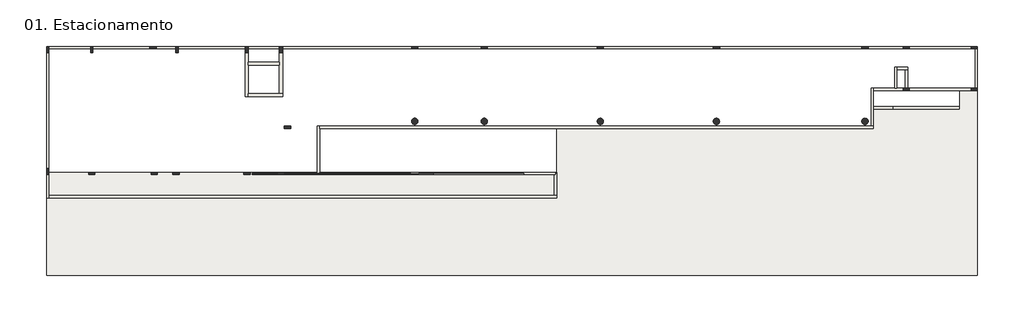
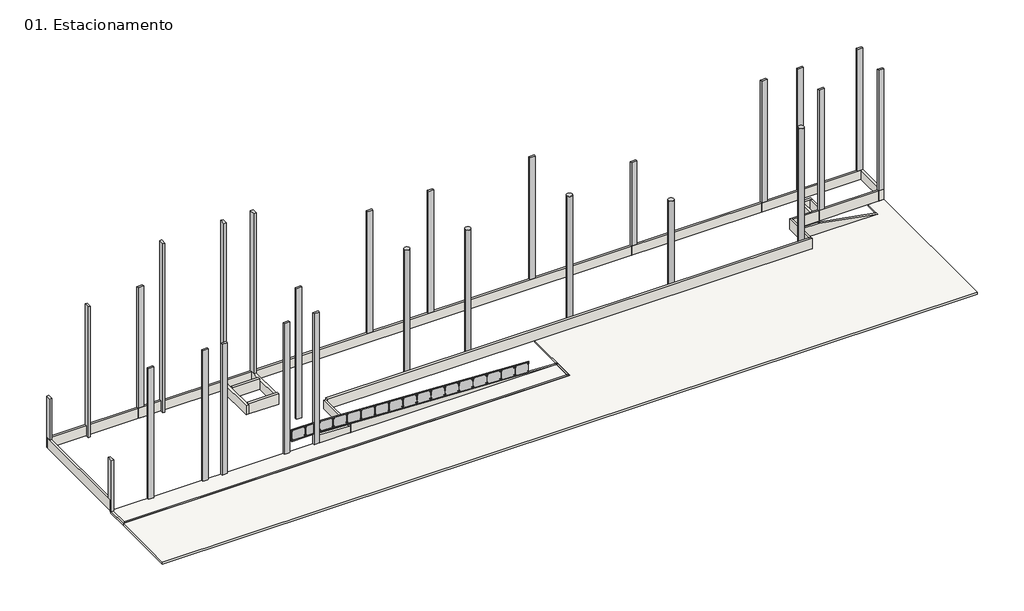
# One storey: 27 columns, 20 walls, 2 slabs, 1 railing.
"""IFC4 building model written with IfcOpenShell, lengths in millimetres."""

from ifc_helpers import new_model, si_unit, point, frame, frame_2d, origin, origin_with_axes, place, context, project, spatial, polyline, circle_curve, trimmed, segment, composite_curve, outline, extrude, faceted_brep, transform, mapped, element, save
from components import m_concrete_rectangular_column_150_x_400mm_822603aa, m_concrete_rectangular_column_150_x_400mm_ad771951, commercial_glass_w_fixings_840375f0

model = new_model("IFC4")

# Units and contexts
model_context = context("Model", 3, world=origin())
ifc_project = project(units=[si_unit("LENGTHUNIT", "METRE", prefix="MILLI")], contexts=[model_context])

# Site, building, storey
site = spatial("IfcSite", under=ifc_project)
building = spatial("IfcBuilding", under=site)
storey = spatial("IfcBuildingStorey", under=building, Name="01. Estacionamento", Elevation=0.0)

# Columns
placement = place(None, origin())
element("IfcColumn", 1, ObjectType="M_Concrete-Circular-Column : Coluna 10,10 - 400mm", at=placement, inside=storey, context=model_context, shape_type="SweptSolid", body=[
    extrude(outline(composite_curve([segment(trimmed(circle_curve(frame_2d((6386.6541151, -7589.5930338)), 200.0), [point((6186.6541151, -7589.5930338))], [point((6586.6541151, -7589.5930338))], False, "CARTESIAN"), True, "CONTINUOUS"), segment(trimmed(circle_curve(frame_2d((6386.6541151, -7589.5930338)), 200.0), [point((6586.6541151, -7589.5930338))], [point((6186.6541151, -7589.5930338))], False, "CARTESIAN"), True, "CONTINUOUS")], self_intersect=False)), frame((0.0, 0.0, 4.8), z_axis=(0.0, 0.0, 1.0), x_axis=(1.0, 0.0, 0.0)), (0.0, 0.0, 1.0), 10100.0),
])
element("IfcColumn", 2, ObjectType="M_Concrete-Circular-Column : Coluna 10,10 - 400mm", at=placement, inside=storey, context=model_context, shape_type="SweptSolid", body=[
    extrude(outline(composite_curve([segment(trimmed(circle_curve(frame_2d((10886.6541151, -7589.5930338)), 200.0), [point((10686.6541151, -7589.5930338))], [point((11086.6541151, -7589.5930338))], False, "CARTESIAN"), True, "CONTINUOUS"), segment(trimmed(circle_curve(frame_2d((10886.6541151, -7589.5930338)), 200.0), [point((11086.6541151, -7589.5930338))], [point((10686.6541151, -7589.5930338))], False, "CARTESIAN"), True, "CONTINUOUS")], self_intersect=False)), frame((0.0, 0.0, 4.8), z_axis=(0.0, 0.0, 1.0), x_axis=(1.0, 0.0, 0.0)), (0.0, 0.0, 1.0), 10100.0),
])
element("IfcColumn", 3, ObjectType="M_Concrete-Circular-Column : Coluna 10,10 - 400mm", at=placement, inside=storey, context=model_context, shape_type="SweptSolid", body=[
    extrude(outline(composite_curve([segment(trimmed(circle_curve(frame_2d((18386.6541151, -7589.5930338)), 200.0), [point((18186.6541151, -7589.5930338))], [point((18586.6541151, -7589.5930338))], False, "CARTESIAN"), True, "CONTINUOUS"), segment(trimmed(circle_curve(frame_2d((18386.6541151, -7589.5930338)), 200.0), [point((18586.6541151, -7589.5930338))], [point((18186.6541151, -7589.5930338))], False, "CARTESIAN"), True, "CONTINUOUS")], self_intersect=False)), frame((0.0, 0.0, 4.8), z_axis=(0.0, 0.0, 1.0), x_axis=(1.0, 0.0, 0.0)), (0.0, 0.0, 1.0), 10100.0),
])
element("IfcColumn", 4, ObjectType="M_Concrete-Circular-Column : Coluna 7,10m - 400mm", at=placement, inside=storey, context=model_context, shape_type="SweptSolid", body=[
    extrude(outline(composite_curve([segment(trimmed(circle_curve(frame_2d((25886.6541151, -7589.5930338)), 200.0), [point((25686.6541151, -7589.5930338))], [point((26086.6541151, -7589.5930338))], False, "CARTESIAN"), True, "CONTINUOUS"), segment(trimmed(circle_curve(frame_2d((25886.6541151, -7589.5930338)), 200.0), [point((26086.6541151, -7589.5930338))], [point((25686.6541151, -7589.5930338))], False, "CARTESIAN"), True, "CONTINUOUS")], self_intersect=False)), frame((0.0, 0.0, 4.8), z_axis=(0.0, 0.0, 1.0), x_axis=(1.0, 0.0, 0.0)), (0.0, 0.0, 1.0), 7100.0),
])
element("IfcColumn", 5, ObjectType="M_Concrete-Circular-Column : Coluna 9,20m - 400mm", at=placement, inside=storey, context=model_context, shape_type="SweptSolid", body=[
    extrude(outline(composite_curve([segment(trimmed(circle_curve(frame_2d((35486.6541151, -7589.5930338)), 200.0), [point((35286.6541151, -7589.5930338))], [point((35686.6541151, -7589.5930338))], False, "CARTESIAN"), True, "CONTINUOUS"), segment(trimmed(circle_curve(frame_2d((35486.6541151, -7589.5930338)), 200.0), [point((35686.6541151, -7589.5930338))], [point((35286.6541151, -7589.5930338))], False, "CARTESIAN"), True, "CONTINUOUS")], self_intersect=False)), origin_with_axes(), (0.0, 0.0, 1.0), 9400.0),
])
element("IfcColumn", 6, ObjectType="M_Concrete-Rectangular-Column : 150 x 400MM", at=placement, inside=storey, context=model_context, shape_type="SweptSolid", body=[
    extrude(outline(polyline([(-14404.6326345, -2741.1116245), (-14404.6326345, -3141.1116245), (-14554.6326345, -3141.1116245), (-14554.6326345, -2741.1116245), (-14404.6326345, -2741.1116245)])), frame((0.0, 0.0, 4.8), z_axis=(0.0, 0.0, 1.0), x_axis=(1.0, 0.0, 0.0)), (0.0, 0.0, 1.0), 10200.0),
])
element("IfcColumn", 7, ObjectType="M_Concrete-Rectangular-Column : 150 x 400MM", at=placement, inside=storey, context=model_context, shape_type="SweptSolid", body=[
    extrude(outline(polyline([(-10729.6326345, -2741.1116245), (-10329.6326345, -2741.1116245), (-10329.6326345, -2891.1116245), (-10729.6326345, -2891.1116245), (-10729.6326345, -2741.1116245)])), frame((0.0, 0.0, 4.8), z_axis=(0.0, 0.0, 1.0), x_axis=(1.0, 0.0, 0.0)), (0.0, 0.0, 1.0), 10200.0),
])
element("IfcColumn", 8, ObjectType="M_Concrete-Rectangular-Column : 150 x 400MM", at=placement, inside=storey, context=model_context, shape_type="SweptSolid", body=[
    extrude(outline(polyline([(-8904.6326345, -2741.1116245), (-8904.6326345, -3141.1116245), (-9054.6326345, -3141.1116245), (-9054.6326345, -2741.1116245), (-8904.6326345, -2741.1116245)])), frame((0.0, 0.0, 4.8), z_axis=(0.0, 0.0, 1.0), x_axis=(1.0, 0.0, 0.0)), (0.0, 0.0, 1.0), 13195.2),
])
element("IfcColumn", 9, ObjectType="M_Concrete-Rectangular-Column : 150 x 400MM", at=placement, inside=storey, context=model_context, shape_type="SweptSolid", body=[
    extrude(outline(polyline([(6185.3673655, -2741.1116245), (6585.3673655, -2741.1116245), (6585.3673655, -2891.1116245), (6185.3673655, -2891.1116245), (6185.3673655, -2741.1116245)])), frame((0.0, 0.0, 4.8), z_axis=(0.0, 0.0, 1.0), x_axis=(1.0, 0.0, 0.0)), (0.0, 0.0, 1.0), 10200.0),
])
element("IfcColumn", 10, ObjectType="M_Concrete-Rectangular-Column : 150 x 400MM", at=placement, inside=storey, context=model_context, shape_type="SweptSolid", body=[
    extrude(outline(polyline([(10685.3673655, -2741.1116245), (11085.3673655, -2741.1116245), (11085.3673655, -2891.1116245), (10685.3673655, -2891.1116245), (10685.3673655, -2741.1116245)])), frame((0.0, 0.0, 4.8), z_axis=(0.0, 0.0, 1.0), x_axis=(1.0, 0.0, 0.0)), (0.0, 0.0, 1.0), 10200.0),
])
element("IfcColumn", 11, ObjectType="M_Concrete-Rectangular-Column : 150 x 400MM", at=placement, inside=storey, context=model_context, shape_type="SweptSolid", body=[
    extrude(outline(polyline([(18185.3673655, -2741.1116245), (18585.3673655, -2741.1116245), (18585.3673655, -2891.1116245), (18185.3673655, -2891.1116245), (18185.3673655, -2741.1116245)])), frame((0.0, 0.0, 4.8), z_axis=(0.0, 0.0, 1.0), x_axis=(1.0, 0.0, 0.0)), (0.0, 0.0, 1.0), 10200.0),
])
element("IfcColumn", 12, ObjectType="M_Concrete-Rectangular-Column : 150 x 400MM", at=placement, inside=storey, context=model_context, shape_type="SweptSolid", body=[
    extrude(outline(polyline([(25685.3673655, -2741.1116245), (26085.3673655, -2741.1116245), (26085.3673655, -2891.1116245), (25685.3673655, -2891.1116245), (25685.3673655, -2741.1116245)])), frame((0.0, 0.0, 4.8), z_axis=(0.0, 0.0, 1.0), x_axis=(1.0, 0.0, 0.0)), (0.0, 0.0, 1.0), 7200.0),
])
element("IfcColumn", 13, ObjectType="M_Concrete-Rectangular-Column : 150 x 400MM", at=placement, inside=storey, context=model_context, shape_type="SweptSolid", body=[
    extrude(outline(polyline([(35285.3673655, -2741.1116245), (35685.3673655, -2741.1116245), (35685.3673655, -2891.1116245), (35285.3673655, -2891.1116245), (35285.3673655, -2741.1116245)])), frame((0.0, 0.0, 4.8), z_axis=(0.0, 0.0, 1.0), x_axis=(1.0, 0.0, 0.0)), (0.0, 0.0, 1.0), 10200.0),
])
element("IfcColumn", 14, ObjectType="M_Concrete-Rectangular-Column : 150 x 400MM", at=placement, inside=storey, context=model_context, shape_type="SweptSolid", body=[
    extrude(outline(polyline([(37960.3673655, -2741.1116245), (38360.3673655, -2741.1116245), (38360.3673655, -2891.1116245), (37960.3673655, -2891.1116245), (37960.3673655, -2741.1116245)])), frame((0.0, 0.0, 4.8), z_axis=(0.0, 0.0, 1.0), x_axis=(1.0, 0.0, 0.0)), (0.0, 0.0, 1.0), 10200.0),
])
element("IfcColumn", 15, ObjectType="M_Concrete-Rectangular-Column : 150 x 400MM", at=placement, inside=storey, context=model_context, shape_type="SweptSolid", body=[
    extrude(outline(polyline([(37960.3673655, -5441.1116245), (38360.3673655, -5441.1116245), (38360.3673655, -5591.1116245), (37960.3673655, -5591.1116245), (37960.3673655, -5441.1116245)])), frame((0.0, 0.0, 4.8), z_axis=(0.0, 0.0, 1.0), x_axis=(1.0, 0.0, 0.0)), (0.0, 0.0, 1.0), 10200.0),
])
m_concrete_rectangular_column_150_x_400mm_shape = m_concrete_rectangular_column_150_x_400mm_822603aa(model_context)
element("IfcColumn", 16, ObjectType="M_Concrete-Rectangular-Column : 150 x 400MM", at=placement, inside=storey, context=model_context, shape_type="MappedRepresentation", body=[
    mapped(m_concrete_rectangular_column_150_x_400mm_shape, transform((-17329.6326345, -2941.1116245, 0.0), x_axis=(1.0, 0.0, 0.0), y_axis=(0.0, 1.0, 0.0), z_axis=(0.0, 0.0, 1.0))),
])
element("IfcColumn", 17, ObjectType="M_Concrete-Rectangular-Column : 150 x 400MM", at=placement, inside=storey, context=model_context, shape_type="MappedRepresentation", body=[
    mapped(m_concrete_rectangular_column_150_x_400mm_shape, transform((-17329.6326345, -10841.1116245, 0.0), x_axis=(1.0, 0.0, 0.0), y_axis=(0.0, 1.0, 0.0), z_axis=(0.0, 0.0, 1.0))),
])
m_concrete_rectangular_column_150_x_400mm_2_shape = m_concrete_rectangular_column_150_x_400mm_ad771951(model_context)
element("IfcColumn", 18, ObjectType="M_Concrete-Rectangular-Column : 150 x 400MM", at=placement, inside=storey, context=model_context, shape_type="MappedRepresentation", body=[
    mapped(m_concrete_rectangular_column_150_x_400mm_2_shape, transform((-14479.6326345, -10966.1116245, 0.0), x_axis=(0.0, 1.0, 0.0), y_axis=(-1.0, 0.0, 0.0), z_axis=(0.0, 0.0, 1.0))),
])
element("IfcColumn", 19, ObjectType="M_Concrete-Rectangular-Column : 150 x 400MM", at=placement, inside=storey, context=model_context, shape_type="MappedRepresentation", body=[
    mapped(m_concrete_rectangular_column_150_x_400mm_2_shape, transform((-10449.6326345, -10966.0281964, 0.0), x_axis=(0.0, 1.0, 0.0), y_axis=(-1.0, 0.0, 0.0), z_axis=(0.0, 0.0, 1.0))),
])
element("IfcColumn", 20, ObjectType="M_Concrete-Rectangular-Column : 150 x 400MM", at=placement, inside=storey, context=model_context, shape_type="MappedRepresentation", body=[
    mapped(m_concrete_rectangular_column_150_x_400mm_2_shape, transform((-9044.6326345, -10966.0281964, 0.0), x_axis=(0.0, 1.0, 0.0), y_axis=(-1.0, 0.0, 0.0), z_axis=(0.0, 0.0, 1.0))),
])
element("IfcColumn", 21, ObjectType="M_Concrete-Rectangular-Column : 150 x 400MM", at=placement, inside=storey, context=model_context, shape_type="MappedRepresentation", body=[
    mapped(m_concrete_rectangular_column_150_x_400mm_2_shape, transform((-4454.6326345, -10966.0281964, 0.0), x_axis=(0.0, 1.0, 0.0), y_axis=(-1.0, 0.0, 0.0), z_axis=(0.0, 0.0, 1.0))),
])
element("IfcColumn", 22, ObjectType="M_Concrete-Rectangular-Column : 150 x 400MM", at=placement, inside=storey, context=model_context, shape_type="MappedRepresentation", body=[
    mapped(m_concrete_rectangular_column_150_x_400mm_2_shape, transform((-2254.6326345, -10966.0281964, 0.0), x_axis=(0.0, 1.0, 0.0), y_axis=(-1.0, 0.0, 0.0), z_axis=(0.0, 0.0, 1.0))),
])
element("IfcColumn", 23, ObjectType="M_Concrete-Rectangular-Column : 150 x 400MM", at=placement, inside=storey, context=model_context, shape_type="MappedRepresentation", body=[
    mapped(m_concrete_rectangular_column_150_x_400mm_2_shape, transform((-1829.6326345, -7966.1116245, 0.0), x_axis=(0.0, 1.0, 0.0), y_axis=(-1.0, 0.0, 0.0), z_axis=(0.0, 0.0, 1.0))),
])
element("IfcColumn", 24, ObjectType="M_Concrete-Rectangular-Column : 150 x 400MM", at=placement, inside=storey, context=model_context, shape_type="MappedRepresentation", body=[
    mapped(m_concrete_rectangular_column_150_x_400mm_2_shape, transform((42555.3673655, -2816.1116245, 0.0), x_axis=(0.0, 1.0, 0.0), y_axis=(-1.0, 0.0, 0.0), z_axis=(0.0, 0.0, 1.0))),
])
element("IfcColumn", 25, ObjectType="M_Concrete-Rectangular-Column : 150 x 400MM", at=placement, inside=storey, context=model_context, shape_type="MappedRepresentation", body=[
    mapped(m_concrete_rectangular_column_150_x_400mm_2_shape, transform((42555.3673655, -5516.1116245, 0.0), x_axis=(0.0, 1.0, 0.0), y_axis=(-1.0, 0.0, 0.0), z_axis=(0.0, 0.0, 1.0))),
])
element("IfcColumn", 26, ObjectType="M_Concrete-Rectangular-Column : 200 x 400MM", at=placement, inside=storey, context=model_context, shape_type="SweptSolid", body=[
    extrude(outline(polyline([(-4354.6326345, -2741.1116245), (-4354.6326345, -3141.1116245), (-4554.6326345, -3141.1116245), (-4554.6326345, -2741.1116245), (-4354.6326345, -2741.1116245)])), frame((0.0, 0.0, 4.8), z_axis=(0.0, 0.0, 1.0), x_axis=(1.0, 0.0, 0.0)), (0.0, 0.0, 1.0), 13195.2),
])
element("IfcColumn", 27, ObjectType="M_Concrete-Rectangular-Column : 200 x 400MM", at=placement, inside=storey, context=model_context, shape_type="SweptSolid", body=[
    extrude(outline(polyline([(-2154.6326345, -2741.1116245), (-2154.6326345, -3141.1116245), (-2354.6326345, -3141.1116245), (-2354.6326345, -2741.1116245), (-2154.6326345, -2741.1116245)])), frame((0.0, 0.0, 4.8), z_axis=(0.0, 0.0, 1.0), x_axis=(1.0, 0.0, 0.0)), (0.0, 0.0, 1.0), 13195.2),
])

# Railing
commercial_glass_w_fixings_shape = commercial_glass_w_fixings_840375f0(model_context)
element("IfcRailing", 28, ObjectType="Commercial - Glass w Fixings", at=placement, inside=storey, context=model_context, shape_type="MappedRepresentation", body=[
    mapped(commercial_glass_w_fixings_shape, transform((0.0, 0.0, 0.0), x_axis=(1.0, 0.0, 0.0), y_axis=(0.0, 1.0, 0.0), z_axis=(0.0, 0.0, 1.0))),
])

# Slabs
element("IfcSlab", 29, ObjectType=".PUMP - INTERTRAVADO NATURAL", at=placement, inside=storey, context=model_context, shape_type="SweptSolid", body=[
    extrude(outline(polyline([(-17404.6326345, -17541.1116245), (-17404.6326345, -12541.1116245), (15565.3673655, -12541.1116245), (15565.3673655, -8041.1116245), (36035.3673655, -8041.1116245), (36035.3673655, -6791.1116245), (36075.3673655, -6791.1116245), (41595.3673655, -6791.1116245), (41595.3673655, -5591.1116245), (42755.3673655, -5591.1116245), (42755.3673655, -17541.1116245), (-17404.6326345, -17541.1116245)])), frame((0.0, 0.0, -140.0), z_axis=(0.0, 0.0, 1.0), x_axis=(1.0, 0.0, 0.0)), (0.0, 0.0, 1.0), 140.0),
])
element("IfcSlab", 30, ObjectType="Genérico 100 mm", at=placement, inside=storey, context=model_context, shape_type="Brep", body=[
    faceted_brep([(-17404.6326345, -12541.1116245, -100.0), (-17404.6326345, -11041.1116245, -100.0), (-17404.6326345, -10891.1116245, -100.0), (15565.3673655, -10891.1116245, -100.0), (15565.3673655, -12541.1116245, -100.0), (-17404.6326345, -12541.1116245, 0.0), (15565.3673655, -12541.1116245, 0.0), (15565.3673655, -10891.1116245, 0.0), (-2029.6326345, -10891.1116245, 0.0), (-17404.6326345, -10891.1116245, 0.0), (-17404.6326345, -11041.1116245, 0.0)], [[[0, 1, 2, 3, 4]], [[5, 6, 7, 8, 9, 10]], [[1, 0, 5, 10]], [[2, 1, 10, 9]], [[3, 2, 9, 8, 7]], [[4, 3, 7, 6]], [[0, 4, 6, 5]]]),
])

# Walls
element("IfcWall", 31, ObjectType="Genérica - meio fio para calçada", at=placement, inside=storey, context=model_context, shape_type="Brep", body=[
    faceted_brep([(-17404.6326345, -10966.1116245, -150.0), (-17404.6326345, -12541.1116245, -150.0), (-17404.6326345, -12541.1116245, 0.0), (-17404.6326345, -10966.1116245, 0.0), (-17254.6326345, -10966.1116245, -150.0), (-17254.6326345, -10966.1116245, 0.0), (-17254.6326345, -12391.1116245, 0.0), (-17254.6326345, -12541.1116245, 0.0), (-17254.6326345, -12541.1116245, -150.0), (-17254.6326345, -12391.1116245, -150.0)], [[[0, 1, 2, 3]], [[4, 5, 6, 7, 8, 9]], [[1, 0, 4, 9, 8]], [[3, 2, 7, 6, 5]], [[0, 3, 5, 4]], [[2, 1, 8, 7]]]),
])
element("IfcWall", 32, ObjectType="Genérica - meio fio para calçada", at=placement, inside=storey, context=model_context, shape_type="Brep", body=[
    faceted_brep([(-17254.6326345, -12541.1116245, -150.0), (15565.3673655, -12541.1116245, -150.0), (15565.3673655, -12541.1116245, 0.0), (-17254.6326345, -12541.1116245, 0.0), (-17254.6326345, -12391.1116245, -150.0), (-17254.6326345, -12391.1116245, 0.0), (15415.3673655, -12391.1116245, 0.0), (15565.3673655, -12391.1116245, 0.0), (15565.3673655, -12391.1116245, -150.0), (15415.3673655, -12391.1116245, -150.0)], [[[0, 1, 2, 3]], [[4, 5, 6, 7, 8, 9]], [[1, 0, 4, 9, 8]], [[3, 2, 7, 6, 5]], [[0, 3, 5, 4]], [[2, 1, 8, 7]]]),
])
element("IfcWall", 33, ObjectType="Genérica - meio fio para calçada", at=placement, inside=storey, context=model_context, shape_type="SweptSolid", body=[
    extrude(outline(polyline([(15565.3673655, -10966.1116245), (15565.3673655, -12391.1116245), (15415.3673655, -12391.1116245), (15415.3673655, -10966.1116245), (15565.3673655, -10966.1116245)])), frame((0.0, 0.0, -150.0), z_axis=(0.0, 0.0, 1.0), x_axis=(1.0, 0.0, 0.0)), (0.0, 0.0, 1.0), 150.0),
])
element("IfcWall", 34, ObjectType="Genérica - meio fio para calçada", at=placement, inside=storey, context=model_context, shape_type="Brep", body=[
    faceted_brep([(236.9816244, -11041.1116245, 0.0), (236.9816244, -10891.1116245, 0.0), (236.9816244, -8041.1116245, 0.0), (236.9816244, -7891.1116245, 0.0), (236.9816244, -7891.1116245, 650.0), (236.9816244, -11041.1116245, 650.0), (86.9816244, -11041.1116245, 0.0), (86.9816244, -11041.1116245, 650.0), (86.9816244, -7891.1116245, 650.0), (86.9816244, -7891.1116245, 0.0)], [[[0, 1, 2, 3, 4, 5]], [[6, 7, 8, 9]], [[3, 2, 1, 0, 6, 9]], [[5, 4, 8, 7]], [[0, 5, 7, 6]], [[4, 3, 9, 8]]]),
])
element("IfcWall", 35, ObjectType="Genérica - meio fio para calçada", at=placement, inside=storey, context=model_context, shape_type="Brep", body=[
    faceted_brep([(236.9816244, -8041.1116245, 0.0), (36035.3673655, -8041.1116245, 0.0), (36035.3673655, -8041.1116245, 800.0), (236.9816244, -8041.1116245, 800.0), (236.9816244, -7891.1116245, 0.0), (236.9816244, -7891.1116245, 650.0), (236.9816244, -7891.1116245, 800.0), (35885.3673655, -7891.1116245, 800.0), (36035.3673655, -7891.1116245, 800.0), (36035.3673655, -7891.1116245, 0.0), (35885.3673655, -7891.1116245, 0.0)], [[[0, 1, 2, 3]], [[4, 5, 6, 7, 8, 9, 10]], [[1, 0, 4, 10, 9]], [[3, 2, 8, 7, 6]], [[0, 3, 6, 5, 4]], [[2, 1, 9, 8]]]),
])
element("IfcWall", 36, ObjectType="Genérica - meio fio para calçada", at=placement, inside=storey, context=model_context, shape_type="Brep", body=[
    faceted_brep([(36035.3673655, -7891.1116245, 0.0), (36035.3673655, -5591.1116245, 0.0), (36035.3673655, -5441.1116245, 0.0), (36035.3673655, -5441.1116245, 800.0), (36035.3673655, -5591.1116245, 800.0), (36035.3673655, -7891.1116245, 800.0), (35885.3673655, -7891.1116245, 0.0), (35885.3673655, -7891.1116245, 800.0), (35885.3673655, -5441.1116245, 800.0), (35885.3673655, -5441.1116245, 0.0)], [[[0, 1, 2, 3, 4, 5]], [[6, 7, 8, 9]], [[2, 1, 0, 6, 9]], [[5, 4, 3, 8, 7]], [[0, 5, 7, 6]], [[3, 2, 9, 8]]]),
])
element("IfcWall", 37, ObjectType="Genérica - meio fio para calçada", at=placement, inside=storey, context=model_context, shape_type="Brep", body=[
    faceted_brep([(36035.3673655, -5591.1116245, 0.0), (42755.3673655, -5591.1116245, 0.0), (42755.3673655, -5591.1116245, 800.0), (36035.3673655, -5591.1116245, 800.0), (36035.3673655, -5441.1116245, 0.0), (36035.3673655, -5441.1116245, 800.0), (37395.3673655, -5441.1116245, 800.0), (37545.3673655, -5441.1116245, 800.0), (38085.3673655, -5441.1116245, 800.0), (38235.3673655, -5441.1116245, 800.0), (42605.3673655, -5441.1116245, 800.0), (42755.3673655, -5441.1116245, 800.0), (42755.3673655, -5441.1116245, 0.0), (42605.3673655, -5441.1116245, 0.0), (38235.3673655, -5441.1116245, 0.0), (38085.3673655, -5441.1116245, 0.0), (37545.3673655, -5441.1116245, 0.0), (37395.3673655, -5441.1116245, 0.0)], [[[0, 1, 2, 3]], [[4, 5, 6, 7, 8, 9, 10, 11, 12, 13, 14, 15, 16, 17]], [[1, 0, 4, 17, 16, 15, 14, 13, 12]], [[3, 2, 11, 10, 9, 8, 7, 6, 5]], [[0, 3, 5, 4]], [[2, 1, 12, 11]]]),
])
element("IfcWall", 38, ObjectType="Genérica - meio fio para calçada", at=placement, inside=storey, context=model_context, shape_type="Brep", body=[
    faceted_brep([(42755.3673655, -5441.1116245, 0.0), (42755.3673655, -2741.1116245, 0.0), (42755.3673655, -2741.1116245, 700.0), (42755.3673655, -5441.1116245, 700.0), (42605.3673655, -2741.1116245, 0.0), (42605.3673655, -2891.1116245, 0.0), (42605.3673655, -5441.1116245, 0.0), (42605.3673655, -5441.1116245, 700.0), (42605.3673655, -2741.1116245, 700.0)], [[[0, 1, 2, 3]], [[4, 5, 6, 7, 8]], [[1, 0, 6, 5, 4]], [[6, 0, 3, 7]], [[1, 4, 8, 2]], [[3, 2, 8, 7]]]),
])
element("IfcWall", 39, ObjectType="Genérica - meio fio para calçada", at=placement, inside=storey, context=model_context, shape_type="Brep", body=[
    faceted_brep([(42605.3673655, -2741.1116245, 0.0), (-17404.6326345, -2741.1116245, 0.0), (-17404.6326345, -2741.1116245, 800.0), (-9054.6326345, -2741.1116245, 800.0), (-9054.6326345, -2741.1116245, 700.0), (42605.3673655, -2741.1116245, 700.0), (-17404.6326345, -2891.1116245, 0.0), (-17254.6326345, -2891.1116245, 0.0), (-10604.6326345, -2891.1116245, 0.0), (-10454.6326345, -2891.1116245, 0.0), (-9054.6326345, -2891.1116245, 0.0), (-8904.6326345, -2891.1116245, 0.0), (-4554.6326345, -2891.1116245, 0.0), (-4354.6326345, -2891.1116245, 0.0), (-2354.6326345, -2891.1116245, 0.0), (-2154.6326345, -2891.1116245, 0.0), (42605.3673655, -2891.1116245, 0.0), (42605.3673655, -2891.1116245, 700.0), (-2154.6326345, -2891.1116245, 700.0), (-2354.6326345, -2891.1116245, 700.0), (-4354.6326345, -2891.1116245, 700.0), (-4554.6326345, -2891.1116245, 700.0), (-8904.6326345, -2891.1116245, 700.0), (-9054.6326345, -2891.1116245, 700.0), (-9054.6326345, -2891.1116245, 800.0), (-17254.6326345, -2891.1116245, 800.0), (-17404.6326345, -2891.1116245, 800.0)], [[[0, 1, 2, 3, 4, 5]], [[6, 7, 8, 9, 10, 11, 12, 13, 14, 15, 16, 17, 18, 19, 20, 21, 22, 23, 24, 25, 26]], [[1, 0, 16, 15, 14, 13, 12, 11, 10, 9, 8, 7, 6]], [[2, 26, 25, 24, 3]], [[16, 0, 5, 17]], [[2, 1, 6, 26]], [[4, 23, 22, 21, 20, 19, 18, 17, 5]], [[23, 4, 3, 24]]]),
])
element("IfcWall", 40, ObjectType="Genérica - meio fio para calçada", at=placement, inside=storey, context=model_context, shape_type="SweptSolid", body=[
    extrude(outline(polyline([(-17404.6326345, -10891.1116245), (-17404.6326345, -2891.1116245), (-17254.6326345, -2891.1116245), (-17254.6326345, -10891.1116245), (-17404.6326345, -10891.1116245)])), origin_with_axes(), (0.0, 0.0, 1.0), 800.0),
])
element("IfcWall", 41, ObjectType="Genérica - meio fio para calçada", at=placement, inside=storey, context=model_context, shape_type="Brep", body=[
    faceted_brep([(236.9816244, -11041.1116245, 0.0), (15490.3673655, -11041.1116245, 0.0), (236.9816244, -11041.1116245, 695.0257619), (236.9816244, -11041.1116245, 650.0), (236.9816244, -10891.1116245, 0.0), (236.9816244, -10891.1116245, 695.0257619), (15490.3673655, -10891.1116245, 0.0)], [[[0, 1, 2, 3]], [[4, 5, 6]], [[1, 0, 4, 6]], [[2, 1, 6, 5]], [[0, 3, 2, 5, 4]]]),
])
element("IfcWall", 42, ObjectType="Genérica - meio fio para calçada", at=placement, inside=storey, context=model_context, shape_type="SweptSolid", body=[
    extrude(outline(polyline([(0.0, 36043.2172567), (0.0, 41595.3673655), (793.4412272, 37267.4982572), (793.4412272, 36043.2172567), (0.0, 36043.2172567)])), frame((0.0, -6791.1116245, 0.0), z_axis=(0.0, 1.0, 0.0), x_axis=(0.0, 0.0, 1.0)), (0.0, 0.0, 1.0), 150.0),
])
element("IfcWall", 43, ObjectType="Genérica - 15cm", at=placement, inside=storey, context=model_context, shape_type="Brep", body=[
    faceted_brep([(37545.3673655, -5441.1116245, 0.0), (37545.3673655, -4241.1116245, 0.0), (37545.3673655, -4091.1116245, 0.0), (37545.3673655, -4091.1116245, 800.0), (37545.3673655, -4241.1116245, 800.0), (37545.3673655, -5441.1116245, 800.0), (37395.3673655, -5441.1116245, 0.0), (37395.3673655, -5441.1116245, 800.0), (37395.3673655, -4091.1116245, 800.0), (37395.3673655, -4091.1116245, 0.0)], [[[0, 1, 2, 3, 4, 5]], [[6, 7, 8, 9]], [[2, 1, 0, 6, 9]], [[5, 4, 3, 8, 7]], [[0, 5, 7, 6]], [[3, 2, 9, 8]]]),
])
element("IfcWall", 44, ObjectType="Genérica - 15cm", at=placement, inside=storey, context=model_context, shape_type="Brep", body=[
    faceted_brep([(37545.3673655, -4241.1116245, 0.0), (38085.3673655, -4241.1116245, 0.0), (38235.3673655, -4241.1116245, 0.0), (38235.3673655, -4241.1116245, 800.0), (38085.3673655, -4241.1116245, 800.0), (37545.3673655, -4241.1116245, 800.0), (37545.3673655, -4091.1116245, 0.0), (37545.3673655, -4091.1116245, 800.0), (38235.3673655, -4091.1116245, 800.0), (38235.3673655, -4091.1116245, 0.0)], [[[0, 1, 2, 3, 4, 5]], [[6, 7, 8, 9]], [[2, 1, 0, 6, 9]], [[5, 4, 3, 8, 7]], [[0, 5, 7, 6]], [[3, 2, 9, 8]]]),
])
element("IfcWall", 45, ObjectType="Genérica - 15cm", at=placement, inside=storey, context=model_context, shape_type="SweptSolid", body=[
    extrude(outline(polyline([(38085.3673655, -5441.1116245), (38085.3673655, -4241.1116245), (38235.3673655, -4241.1116245), (38235.3673655, -5441.1116245), (38085.3673655, -5441.1116245)])), origin_with_axes(), (0.0, 0.0, 1.0), 800.0),
])
element("IfcWall", 46, ObjectType="Genérica - 20cm", at=placement, inside=storey, context=model_context, shape_type="Brep", body=[
    faceted_brep([(-4554.6326345, -2891.1116245, 0.0), (-4554.6326345, -5991.1116245, 0.0), (-4554.6326345, -5991.1116245, 700.0), (-4554.6326345, -2891.1116245, 700.0), (-4354.6326345, -5991.1116245, 0.0), (-4354.6326345, -5791.1116245, 0.0), (-4354.6326345, -3941.1116245, 0.0), (-4354.6326345, -3741.1116245, 0.0), (-4354.6326345, -2891.1116245, 0.0), (-4354.6326345, -2891.1116245, 700.0), (-4354.6326345, -3741.1116245, 700.0), (-4354.6326345, -3941.1116245, 700.0), (-4354.6326345, -5791.1116245, 700.0), (-4354.6326345, -5991.1116245, 700.0)], [[[0, 1, 2, 3]], [[4, 5, 6, 7, 8, 9, 10, 11, 12, 13]], [[1, 0, 8, 7, 6, 5, 4]], [[8, 0, 3, 9]], [[1, 4, 13, 2]], [[3, 2, 13, 12, 11, 10, 9]]]),
])
element("IfcWall", 47, ObjectType="Genérica - 20cm", at=placement, inside=storey, context=model_context, shape_type="Brep", body=[
    faceted_brep([(-4354.6326345, -5991.1116245, 0.0), (-2154.6326345, -5991.1116245, 0.0), (-2154.6326345, -5991.1116245, 800.0), (-4354.6326345, -5991.1116245, 800.0), (-4354.6326345, -5791.1116245, 0.0), (-4354.6326345, -5791.1116245, 800.0), (-2354.6326345, -5791.1116245, 800.0), (-2154.6326345, -5791.1116245, 800.0), (-2154.6326345, -5791.1116245, 0.0), (-2354.6326345, -5791.1116245, 0.0)], [[[0, 1, 2, 3]], [[4, 5, 6, 7, 8, 9]], [[1, 0, 4, 9, 8]], [[3, 2, 7, 6, 5]], [[0, 3, 5, 4]], [[2, 1, 8, 7]]]),
])
element("IfcWall", 48, ObjectType="Genérica - 20cm", at=placement, inside=storey, context=model_context, shape_type="Brep", body=[
    faceted_brep([(-2154.6326345, -5791.1116245, 0.0), (-2154.6326345, -2891.1116245, 0.0), (-2154.6326345, -2891.1116245, 700.0), (-2154.6326345, -5791.1116245, 700.0), (-2354.6326345, -2891.1116245, 0.0), (-2354.6326345, -3741.1116245, 0.0), (-2354.6326345, -3941.1116245, 0.0), (-2354.6326345, -5791.1116245, 0.0), (-2354.6326345, -5791.1116245, 700.0), (-2354.6326345, -3941.1116245, 700.0), (-2354.6326345, -3741.1116245, 700.0), (-2354.6326345, -2891.1116245, 700.0)], [[[0, 1, 2, 3]], [[4, 5, 6, 7, 8, 9, 10, 11]], [[1, 0, 7, 6, 5, 4]], [[7, 0, 3, 8]], [[1, 4, 11, 2]], [[3, 2, 11, 10, 9, 8]]]),
])
element("IfcWall", 49, ObjectType="Genérica - 20cm", at=placement, inside=storey, context=model_context, shape_type="SweptSolid", body=[
    extrude(outline(polyline([(-2354.6326345, -3941.1116245), (-4354.6326345, -3941.1116245), (-4354.6326345, -3741.1116245), (-2354.6326345, -3741.1116245), (-2354.6326345, -3941.1116245)])), origin_with_axes(), (0.0, 0.0, 1.0), 800.0),
])
element("IfcWall", 50, ObjectType="Genérica - 15cm", at=placement, inside=storey, context=model_context, shape_type="SweptSolid", body=[
    extrude(outline(polyline([(0.0, -2029.6326345), (0.0, 270.3673655), (534.2, 270.3673655), (640.0, -2029.6326345), (0.0, -2029.6326345)])), frame((0.0, -11041.1116245, 0.0), z_axis=(0.0, 1.0, 0.0), x_axis=(0.0, 0.0, 1.0)), (0.0, 0.0, 1.0), 150.0),
])

save(model, "model.ifc")
